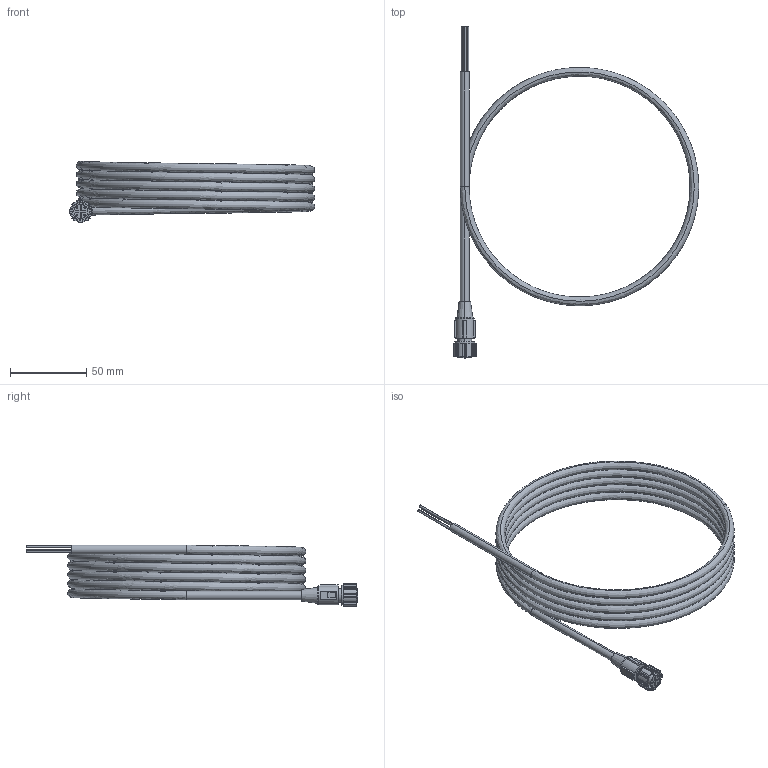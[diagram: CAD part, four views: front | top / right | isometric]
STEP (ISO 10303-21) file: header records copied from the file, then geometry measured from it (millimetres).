
FILE_DESCRIPTION (( 'STEP AP214' ), '1' );
FILE_NAME ('Cable-1.STEP', '2021-02-12T15:35:42', ( '' ), ( '' ), 'SwSTEP 2.0', 'SolidWorks 2021', '' );
FILE_SCHEMA (( 'AUTOMOTIVE_DESIGN' ));
Length unit declared in the file: millimetre
Products named in the file (1): Cable-1
Bounding box: 160.33 x 217 x 40.33 mm (x, y, z)
Volume: 67910 mm3; surface area: 47868.3 mm2
Topology: 4 solids, 4 shells, 148 faces, 361 edges, 238 vertices
Faces by surface type: plane 72, cylinder 68, cone 6, bspline 2
Entity records: 8245 total; most frequent: CARTESIAN_POINT 3000, DIRECTION 807, ORIENTED_EDGE 722, EDGE_CURVE 361, AXIS2_PLACEMENT_3D 301, VERTEX_POINT 238, VECTOR 205, LINE 205
